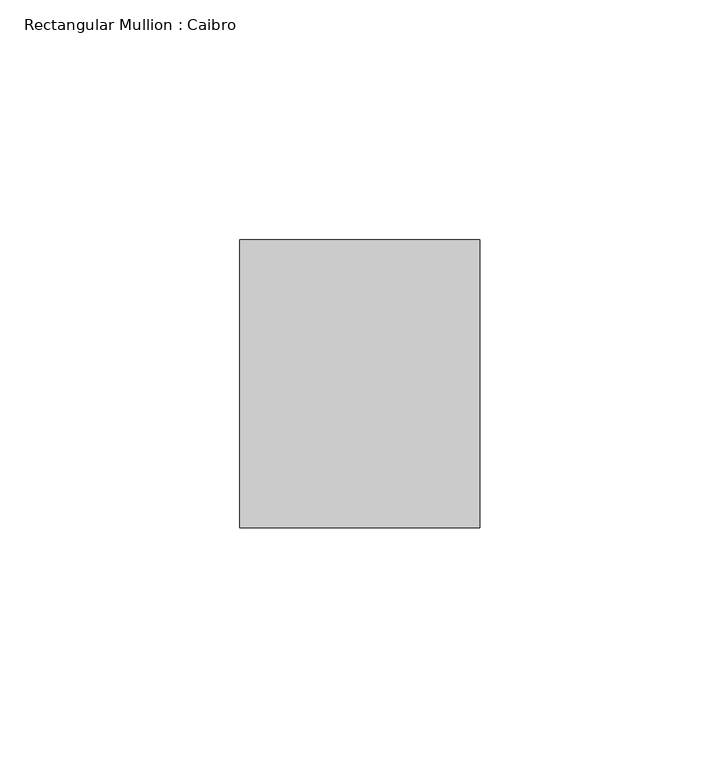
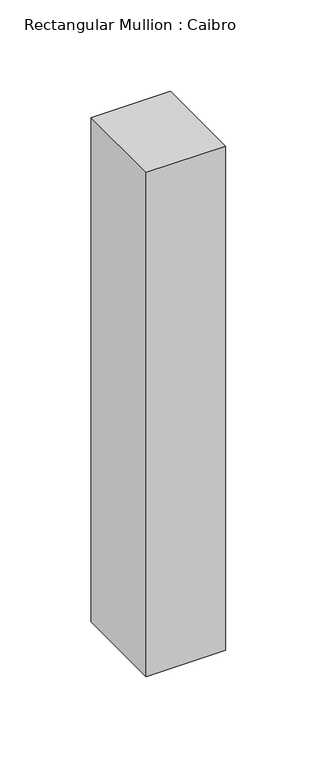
"""IFC4 building model written with IfcOpenShell, lengths in millimetres: member geometry, Rectangular Mullion : Caibro."""

from ifc_helpers import new_model, si_unit, frame, origin, place, context, project, spatial, polyline, outline, extrude, source, transform, mapped, element, save


def rectangular_mullion_caibro_df98490b(model_context):
    return source(origin(), model_context, "Body", "SweptSolid", [
        extrude(outline(polyline([(-25.0, -60.0), (-25.0, 0.0), (25.0, 0.0), (25.0, -60.0), (-25.0, -60.0)])), frame((0.0, 0.0, -336.4764043), z_axis=(0.0, 0.0, 1.0), x_axis=(1.0, 0.0, 0.0)), (0.0, 0.0, 1.0), 336.4764043),
    ])


if __name__ == "__main__":
    model = new_model("IFC4")
    model_context = context("Model", 3, world=origin())
    ifc_project = project(units=[si_unit("LENGTHUNIT", "METRE", prefix="MILLI")], contexts=[model_context])
    site = spatial("IfcSite", under=ifc_project)
    building = spatial("IfcBuilding", under=site)
    placement = place(None, origin())
    rectangular_mullion_caibro_shape = rectangular_mullion_caibro_df98490b(model_context)
    element("IfcMember", 1, ObjectType="Rectangular Mullion : Caibro", at=placement, inside=building, context=model_context, shape_type="MappedRepresentation", body=[
        mapped(rectangular_mullion_caibro_shape, transform((0.0, 0.0, 0.0), x_axis=(1.0, 0.0, 0.0), y_axis=(0.0, 1.0, 0.0), z_axis=(0.0, 0.0, 1.0))),
    ])
    save(model, "model.ifc")
